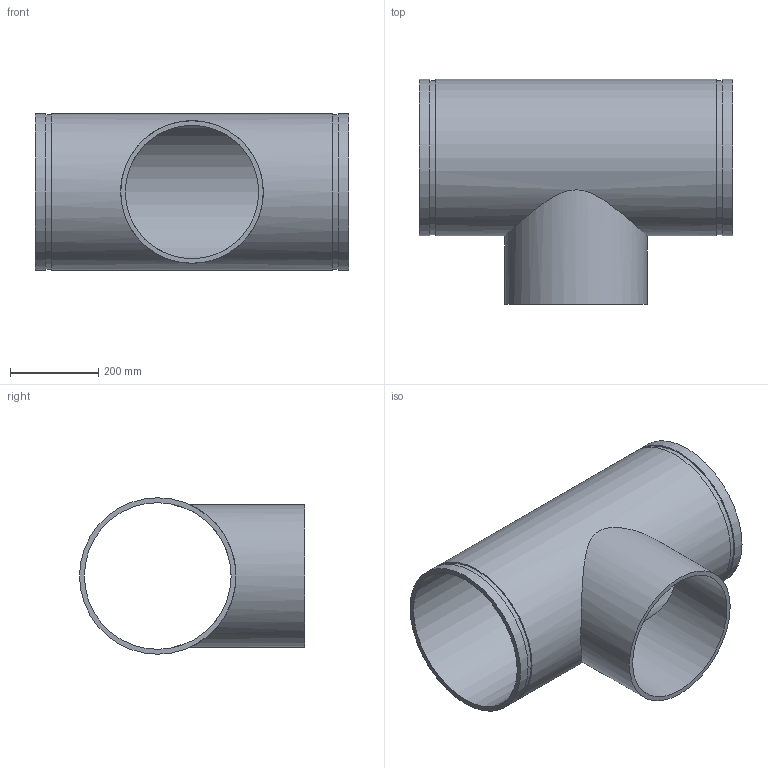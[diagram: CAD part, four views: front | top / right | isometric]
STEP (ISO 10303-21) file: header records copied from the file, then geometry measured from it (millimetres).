
FILE_DESCRIPTION(/* description */ ('VIC REDUCING TEE No 29T FFT (OGSxMPT)','CAx-IF Rec.Pracs.---Representation and Presentation of Product Manufacturing Information (PMI)---4.0---2014-10-13'),/* implementation_level */ '2;1');
FILE_NAME(/* name */ 'C:\Users\kkamble\AppData\Roaming\Autodesk\ApplicationPlugins\Back Up\Victaulic_IPS_Tee Reducing_No 29T FFT (OGSxMPT)\Victaulic_IPS_Tee Reducing_No 29T FFT (OGSxMPT)_14.0x12.0 (350x300).stp',/* time_stamp */ '2020-09-16T22:39:48+05:00',/* author */ ('CORINNE GRAY'),/* organization */ ('Victaulic'),/* preprocessor_version */ 'ST-DEVELOPER v17.2',/* originating_system */ 'Autodesk Inventor 2019',/* authorisation */ '');
FILE_SCHEMA (('AP242_MANAGED_MODEL_BASED_3D_ENGINEERING_MIM_LF { 1 0 10303 442 1 1 4 }'));
Length unit declared in the file: inch
Products named in the file (1): 29 FFT-14.0x12.0
Bounding box: 711.2 x 511.3 x 355.6 mm (x, y, z)
Volume: 9564005.2 mm3; surface area: 1811496.7 mm2
Topology: 1 solids, 1 shells, 15 faces, 32 edges, 24 vertices
Faces by surface type: cylinder 8, plane 7
Full cylindrical faces by diameter (mm): 303.225 x1, 323.85 x1, 333.4 x1, 350.037 x2, 355.6 x3
Entity records: 781 total; most frequent: CARTESIAN_POINT 293, DIRECTION 106, ORIENTED_EDGE 64, AXIS2_PLACEMENT_3D 49, EDGE_CURVE 32, EDGE_LOOP 24, VERTEX_POINT 24, CIRCLE 20
